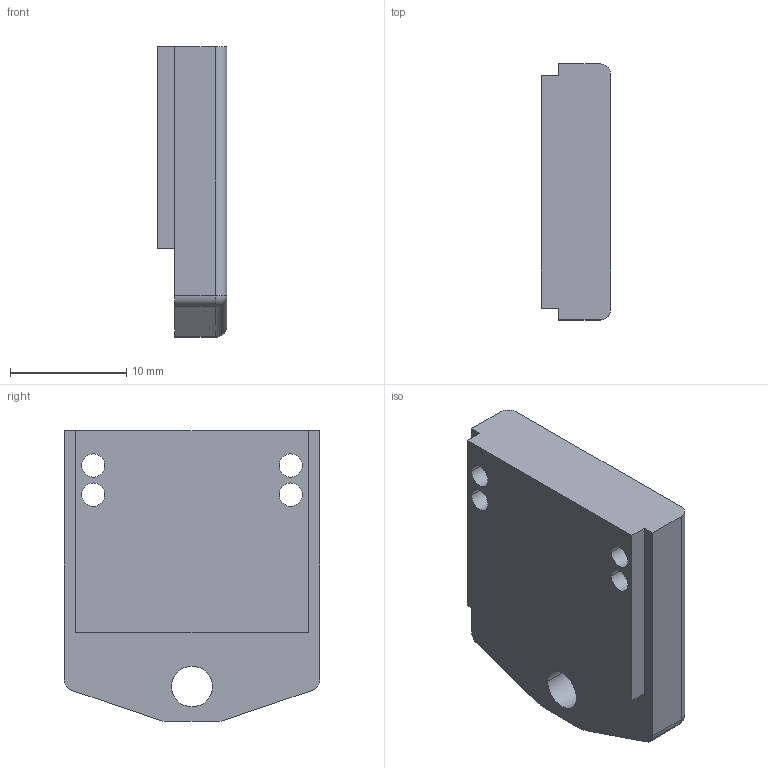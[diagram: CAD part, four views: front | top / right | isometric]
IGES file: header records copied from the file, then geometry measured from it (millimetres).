
Start section:  PTC IGES file: dv12paaty.igs
Global section: file name: dv12paaty.igs; native system: Pro/ENGINEER by Parametric Technology Corporation; preprocessor: 2004360; author: juha.telimaa; organization: Unknown; date: 060214.163610; units: millimetre
Bounding box: 6 x 22 x 25 mm (x, y, z)
Volume: 2392.3 mm3; surface area: 1796.6 mm2
Topology: 1 solids, 1 shells, 40 faces, 101 edges, 64 vertices
Faces by surface type: revolution 23, bspline 17
